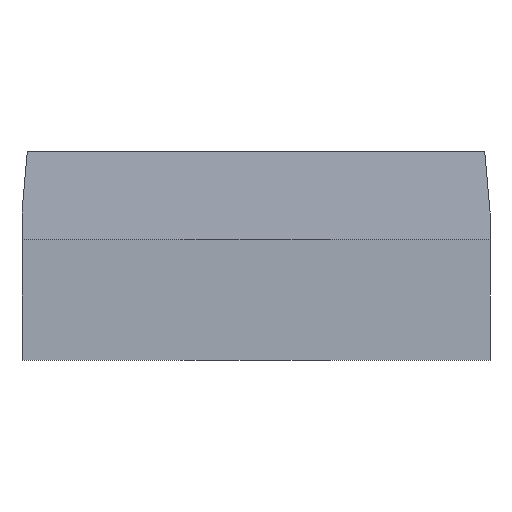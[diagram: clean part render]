
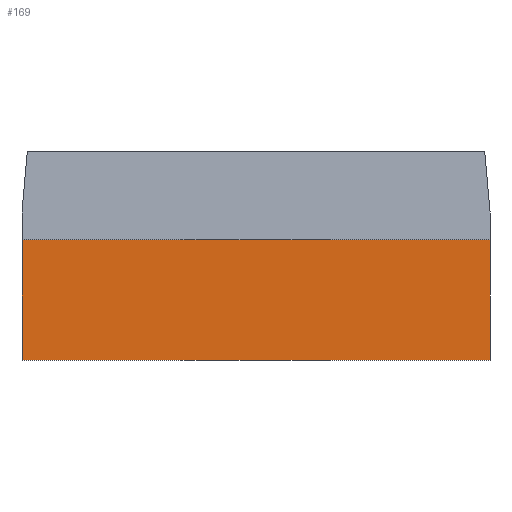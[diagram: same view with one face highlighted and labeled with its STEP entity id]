
A CAD part, left-side view. The second image highlights one B-rep face of the part: STEP entity #169.
In plain terms, the highlighted planar face has unit normal (-1, 0, 0).
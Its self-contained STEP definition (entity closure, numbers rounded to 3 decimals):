
#169=ADVANCED_FACE('',(#243),#207,.T.);
#207=PLANE('',#811);
#243=FACE_OUTER_BOUND('',#280,.T.);
#280=EDGE_LOOP('',(#366,#367,#368,#369));
#366=ORIENTED_EDGE('',*,*,#570,.T.);
#367=ORIENTED_EDGE('',*,*,#567,.T.);
#368=ORIENTED_EDGE('',*,*,#572,.F.);
#369=ORIENTED_EDGE('',*,*,#573,.T.);
#498=VERTEX_POINT('',#1060);
#500=VERTEX_POINT('',#1064);
#503=VERTEX_POINT('',#1072);
#504=VERTEX_POINT('',#1076);
#567=EDGE_CURVE('',#498,#500,#654,.T.);
#570=EDGE_CURVE('',#503,#498,#656,.T.);
#572=EDGE_CURVE('',#504,#500,#658,.T.);
#573=EDGE_CURVE('',#504,#503,#659,.T.);
#654=LINE('',#1065,#739);
#656=LINE('',#1071,#741);
#658=LINE('',#1075,#743);
#659=LINE('',#1077,#744);
#739=VECTOR('',#889,1.);
#741=VECTOR('',#895,1.);
#743=VECTOR('',#899,1.);
#744=VECTOR('',#900,1.);
#811=AXIS2_PLACEMENT_3D('',#1078,#901,#902);
#889=DIRECTION('',(0.,1.,0.));
#895=DIRECTION('',(0.,0.,1.));
#899=DIRECTION('',(0.,0.,1.));
#900=DIRECTION('',(0.,-1.,0.));
#901=DIRECTION('',(-1.,0.,0.));
#902=DIRECTION('',(0.,0.,1.));
#1060=CARTESIAN_POINT('',(-6.6,0.,2.6));
#1064=CARTESIAN_POINT('',(-6.6,10.1,2.6));
#1065=CARTESIAN_POINT('',(-6.6,5.05,2.6));
#1071=CARTESIAN_POINT('',(-6.6,0.,0.));
#1072=CARTESIAN_POINT('',(-6.6,0.,0.));
#1075=CARTESIAN_POINT('',(-6.6,10.1,0.));
#1076=CARTESIAN_POINT('',(-6.6,10.1,0.));
#1077=CARTESIAN_POINT('',(-6.6,5.05,0.));
#1078=CARTESIAN_POINT('',(-6.6,5.05,0.));
